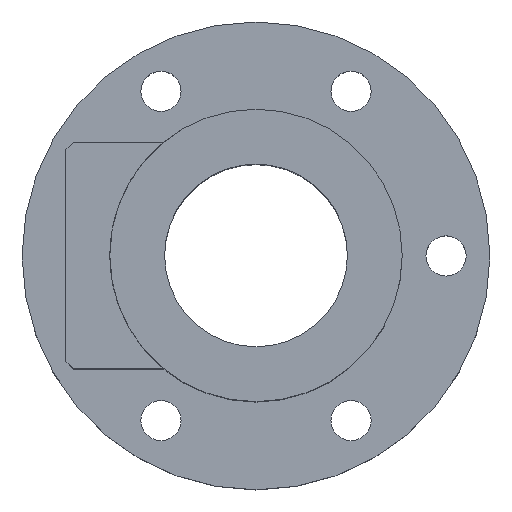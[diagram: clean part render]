
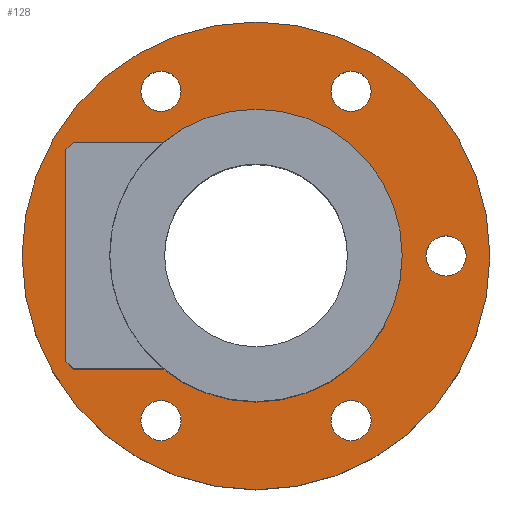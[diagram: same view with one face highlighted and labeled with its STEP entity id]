
A CAD part, top view. The second image highlights one B-rep face of the part: STEP entity #128.
In plain terms, the highlighted planar face has unit normal (0, 0, 1).
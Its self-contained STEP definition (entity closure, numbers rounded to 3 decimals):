
#97=PLANE('',#515);
#112=FACE_OUTER_BOUND('',#251,.T.);
#128=ADVANCED_FACE('',(#203,#204,#205,#112,#206,#207,#208),#97,.T.);
#203=FACE_BOUND('',#248,.T.);
#204=FACE_BOUND('',#249,.T.);
#205=FACE_BOUND('',#250,.T.);
#206=FACE_BOUND('',#252,.T.);
#207=FACE_BOUND('',#253,.T.);
#208=FACE_BOUND('',#254,.T.);
#248=EDGE_LOOP('',(#311));
#249=EDGE_LOOP('',(#312));
#250=EDGE_LOOP('',(#313));
#251=EDGE_LOOP('',(#314));
#252=EDGE_LOOP('',(#315));
#253=EDGE_LOOP('',(#316));
#254=EDGE_LOOP('',(#317));
#311=ORIENTED_EDGE('',*,*,#437,.F.);
#312=ORIENTED_EDGE('',*,*,#438,.F.);
#313=ORIENTED_EDGE('',*,*,#432,.F.);
#314=ORIENTED_EDGE('',*,*,#439,.T.);
#315=ORIENTED_EDGE('',*,*,#440,.F.);
#316=ORIENTED_EDGE('',*,*,#441,.F.);
#317=ORIENTED_EDGE('',*,*,#442,.F.);
#394=VERTEX_POINT('',#694);
#399=VERTEX_POINT('',#705);
#400=VERTEX_POINT('',#707);
#401=VERTEX_POINT('',#709);
#402=VERTEX_POINT('',#711);
#403=VERTEX_POINT('',#713);
#404=VERTEX_POINT('',#715);
#432=EDGE_CURVE('',#394,#394,#476,.T.);
#437=EDGE_CURVE('',#399,#399,#479,.T.);
#438=EDGE_CURVE('',#400,#400,#480,.T.);
#439=EDGE_CURVE('',#401,#401,#481,.T.);
#440=EDGE_CURVE('',#402,#402,#482,.T.);
#441=EDGE_CURVE('',#403,#403,#483,.T.);
#442=EDGE_CURVE('',#404,#404,#484,.T.);
#476=CIRCLE('',#505,20.);
#479=CIRCLE('',#509,2.75);
#480=CIRCLE('',#510,2.75);
#481=CIRCLE('',#511,32.);
#482=CIRCLE('',#512,2.75);
#483=CIRCLE('',#513,2.75);
#484=CIRCLE('',#514,2.75);
#505=AXIS2_PLACEMENT_3D('',#693,#564,#565);
#509=AXIS2_PLACEMENT_3D('',#704,#574,#575);
#510=AXIS2_PLACEMENT_3D('',#706,#576,#577);
#511=AXIS2_PLACEMENT_3D('',#708,#578,#579);
#512=AXIS2_PLACEMENT_3D('',#710,#580,#581);
#513=AXIS2_PLACEMENT_3D('',#712,#582,#583);
#514=AXIS2_PLACEMENT_3D('',#714,#584,#585);
#515=AXIS2_PLACEMENT_3D('',#716,#586,#587);
#564=DIRECTION('',(0.,0.,1.));
#565=DIRECTION('',(1.,0.,0.));
#574=DIRECTION('',(0.,0.,1.));
#575=DIRECTION('',(-0.5,-0.866,0.));
#576=DIRECTION('',(0.,0.,1.));
#577=DIRECTION('',(0.5,0.866,0.));
#578=DIRECTION('',(0.,0.,1.));
#579=DIRECTION('',(1.,0.,0.));
#580=DIRECTION('',(0.,0.,1.));
#581=DIRECTION('',(1.,0.,0.));
#582=DIRECTION('',(0.,0.,1.));
#583=DIRECTION('',(-1.,0.,0.));
#584=DIRECTION('',(0.,0.,1.));
#585=DIRECTION('',(0.5,-0.866,0.));
#586=DIRECTION('',(0.,0.,1.));
#587=DIRECTION('',(1.,0.,0.));
#693=CARTESIAN_POINT('',(0.,0.,12.));
#694=CARTESIAN_POINT('',(20.,0.,12.));
#704=CARTESIAN_POINT('',(13.,-22.517,12.));
#705=CARTESIAN_POINT('',(11.625,-24.898,12.));
#706=CARTESIAN_POINT('',(-13.,22.517,12.));
#707=CARTESIAN_POINT('',(-11.625,24.898,12.));
#708=CARTESIAN_POINT('',(0.,0.,12.));
#709=CARTESIAN_POINT('',(32.,0.,12.));
#710=CARTESIAN_POINT('',(13.,22.517,12.));
#711=CARTESIAN_POINT('',(15.75,22.517,12.));
#712=CARTESIAN_POINT('',(-13.,-22.517,12.));
#713=CARTESIAN_POINT('',(-15.75,-22.517,12.));
#714=CARTESIAN_POINT('',(26.,0.,12.));
#715=CARTESIAN_POINT('',(27.375,-2.382,12.));
#716=CARTESIAN_POINT('',(0.,0.,12.));
